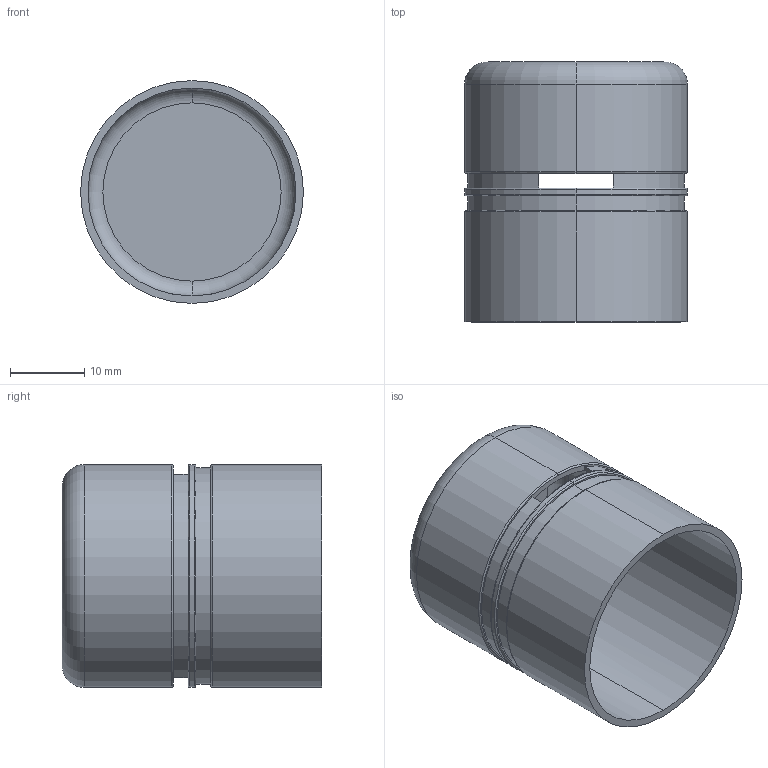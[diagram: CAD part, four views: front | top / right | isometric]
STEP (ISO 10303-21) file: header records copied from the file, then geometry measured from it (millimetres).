
FILE_DESCRIPTION (( 'STEP AP214' ), '1' );
FILE_NAME ('耦邃桧栩咫黖35.STEP', '2025-02-25T12:12:48', ( '' ), ( '' ), 'SwSTEP 2.0', 'SolidWorks 2023', '' );
FILE_SCHEMA (( 'AUTOMOTIVE_DESIGN' ));
Length unit declared in the file: millimetre
Products named in the file (1): соединитель_35
Bounding box: 30 x 35 x 30 mm (x, y, z)
Volume: 3527.1 mm3; surface area: 7554.8 mm2
Topology: 1 solids, 1 shells, 35 faces, 84 edges, 52 vertices
Faces by surface type: torus 12, cylinder 12, plane 11
Entity records: 1069 total; most frequent: DIRECTION 212, CARTESIAN_POINT 172, ORIENTED_EDGE 168, AXIS2_PLACEMENT_3D 92, EDGE_CURVE 84, CIRCLE 56, VERTEX_POINT 52, EDGE_LOOP 40
